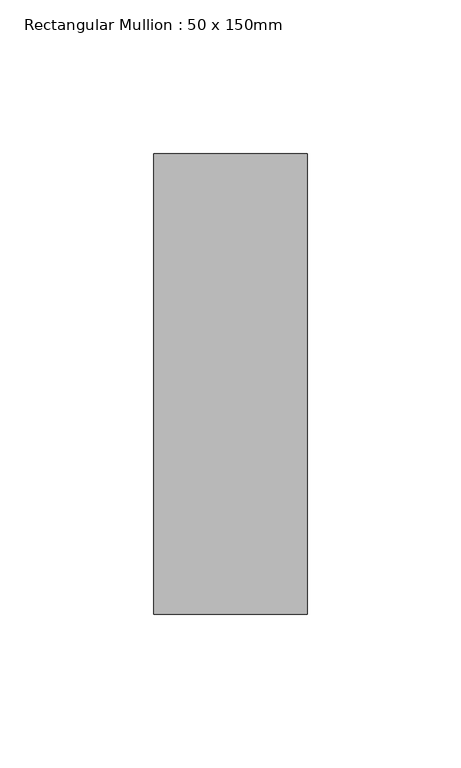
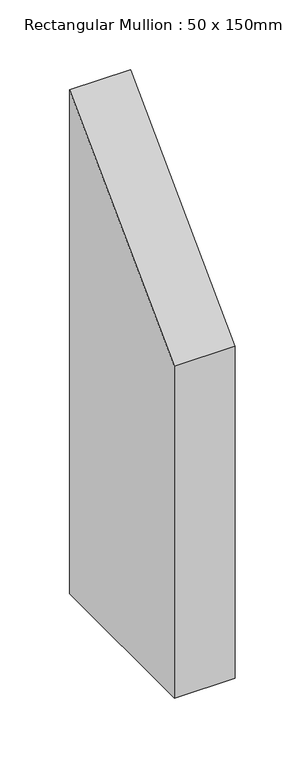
"""IFC4 building model written with IfcOpenShell, lengths in millimetres: member geometry, Rectangular Mullion : 50 x 150mm."""

from ifc_helpers import new_model, si_unit, frame, origin, place, context, project, spatial, polyline, outline, extrude, source, transform, mapped, element, save


def rectangular_mullion_50_x_150mm_7f8cefd5(model_context):
    return source(origin(), model_context, "Body", "SweptSolid", [
        extrude(outline(polyline([(-75.0, -75.0), (75.0, 75.0), (75.0, -364.7256931), (-75.0, -364.7256931), (-75.0, -75.0)])), frame((-50.0, 0.0, 0.0), z_axis=(1.0, 0.0, 0.0), x_axis=(0.0, 1.0, 0.0)), (0.0, 0.0, 1.0), 50.0),
    ])


if __name__ == "__main__":
    model = new_model("IFC4")
    model_context = context("Model", 3, world=origin())
    ifc_project = project(units=[si_unit("LENGTHUNIT", "METRE", prefix="MILLI")], contexts=[model_context])
    site = spatial("IfcSite", under=ifc_project)
    building = spatial("IfcBuilding", under=site)
    placement = place(None, origin())
    rectangular_mullion_50_x_150mm_shape = rectangular_mullion_50_x_150mm_7f8cefd5(model_context)
    element("IfcMember", 1, ObjectType="Rectangular Mullion : 50 x 150mm", at=placement, inside=building, context=model_context, shape_type="MappedRepresentation", body=[
        mapped(rectangular_mullion_50_x_150mm_shape, transform((0.0, 0.0, 0.0), x_axis=(1.0, 0.0, 0.0), y_axis=(0.0, 1.0, 0.0), z_axis=(0.0, 0.0, 1.0))),
    ])
    save(model, "model.ifc")
